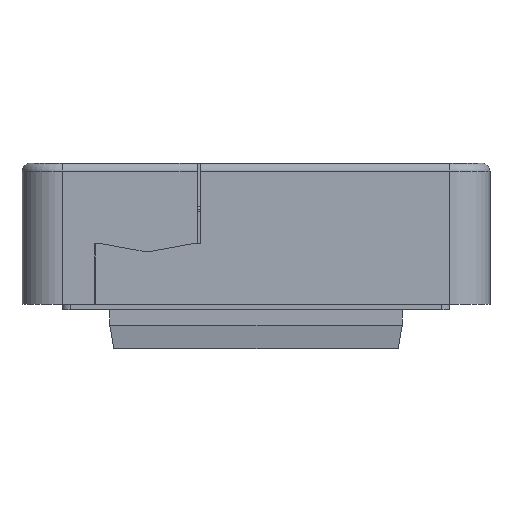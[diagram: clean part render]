
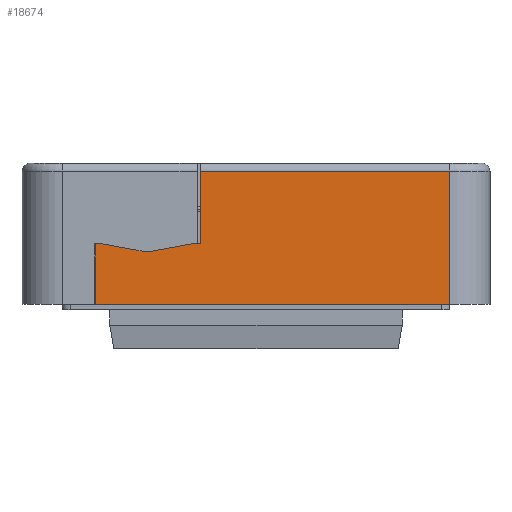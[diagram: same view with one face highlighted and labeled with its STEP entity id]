
A CAD part, left-side view. The second image highlights one B-rep face of the part: STEP entity #18674.
In plain terms, the highlighted planar face has unit normal (-1, 0, 0) as drawn and (1, 0, 0) by its records, which use the part's own axes.
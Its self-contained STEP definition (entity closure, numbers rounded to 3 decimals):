
#606=PLANE('',#20103);
#2400=LINE('',#31302,#4213);
#2446=LINE('',#31406,#4259);
#2448=LINE('',#31412,#4261);
#2449=LINE('',#31414,#4262);
#2450=LINE('',#31415,#4263);
#2451=LINE('',#31417,#4264);
#2452=LINE('',#31419,#4265);
#2453=LINE('',#31421,#4266);
#2454=LINE('',#31422,#4267);
#4213=VECTOR('',#23705,10.);
#4259=VECTOR('',#23785,10.);
#4261=VECTOR('',#23791,10.);
#4262=VECTOR('',#23792,10.);
#4263=VECTOR('',#23793,10.);
#4264=VECTOR('',#23794,10.);
#4265=VECTOR('',#23795,10.);
#4266=VECTOR('',#23796,10.);
#4267=VECTOR('',#23797,10.);
#5770=FACE_OUTER_BOUND('',#6908,.T.);
#6908=EDGE_LOOP('',(#16139,#16140,#16141,#16142,#16143,#16144,#16145,#16146,
#16147));
#9029=VERTEX_POINT('',#31299);
#9030=VERTEX_POINT('',#31301);
#9070=VERTEX_POINT('',#31403);
#9071=VERTEX_POINT('',#31405);
#9073=VERTEX_POINT('',#31411);
#9074=VERTEX_POINT('',#31413);
#9075=VERTEX_POINT('',#31416);
#9076=VERTEX_POINT('',#31418);
#9077=VERTEX_POINT('',#31420);
#11472=EDGE_CURVE('',#9030,#9029,#2400,.T.);
#11525=EDGE_CURVE('',#9071,#9070,#2446,.T.);
#11528=EDGE_CURVE('',#9073,#9029,#2448,.T.);
#11529=EDGE_CURVE('',#9074,#9073,#2449,.T.);
#11530=EDGE_CURVE('',#9071,#9074,#2450,.T.);
#11531=EDGE_CURVE('',#9070,#9075,#2451,.T.);
#11532=EDGE_CURVE('',#9075,#9076,#2452,.T.);
#11533=EDGE_CURVE('',#9076,#9077,#2453,.T.);
#11534=EDGE_CURVE('',#9077,#9030,#2454,.T.);
#16139=ORIENTED_EDGE('',*,*,#11472,.T.);
#16140=ORIENTED_EDGE('',*,*,#11528,.F.);
#16141=ORIENTED_EDGE('',*,*,#11529,.F.);
#16142=ORIENTED_EDGE('',*,*,#11530,.F.);
#16143=ORIENTED_EDGE('',*,*,#11525,.T.);
#16144=ORIENTED_EDGE('',*,*,#11531,.T.);
#16145=ORIENTED_EDGE('',*,*,#11532,.T.);
#16146=ORIENTED_EDGE('',*,*,#11533,.T.);
#16147=ORIENTED_EDGE('',*,*,#11534,.T.);
#18674=ADVANCED_FACE('',(#5770),#606,.T.);
#20103=AXIS2_PLACEMENT_3D('',#31410,#23789,#23790);
#23705=DIRECTION('',(0.,0.,-1.));
#23785=DIRECTION('',(0.,0.,-1.));
#23789=DIRECTION('center_axis',(1.,0.,0.));
#23790=DIRECTION('ref_axis',(0.,0.,-1.));
#23791=DIRECTION('',(0.,-1.,0.));
#23792=DIRECTION('',(0.,0.,-1.));
#23793=DIRECTION('',(0.,1.,0.));
#23794=DIRECTION('',(0.,-1.,0.));
#23795=DIRECTION('',(0.,-0.984,-0.179));
#23796=DIRECTION('',(0.,-0.984,0.179));
#23797=DIRECTION('',(0.,-1.,0.));
#31299=CARTESIAN_POINT('',(60.5,-19.9,0.));
#31301=CARTESIAN_POINT('',(60.5,-19.9,7.5));
#31302=CARTESIAN_POINT('',(60.5,-19.9,2.304));
#31403=CARTESIAN_POINT('',(60.5,-6.9,7.5));
#31405=CARTESIAN_POINT('',(60.5,-6.9,16.5));
#31406=CARTESIAN_POINT('',(60.5,-6.9,6.427));
#31410=CARTESIAN_POINT('Origin',(60.5,29.,0.));
#31411=CARTESIAN_POINT('',(60.5,24.,0.));
#31412=CARTESIAN_POINT('',(60.5,29.,0.));
#31413=CARTESIAN_POINT('',(60.5,24.,16.5));
#31414=CARTESIAN_POINT('',(60.5,24.,0.));
#31415=CARTESIAN_POINT('',(60.5,14.5,16.5));
#31416=CARTESIAN_POINT('',(60.5,-8.,7.5));
#31417=CARTESIAN_POINT('',(60.5,4.5,7.5));
#31418=CARTESIAN_POINT('',(60.5,-13.5,6.5));
#31419=CARTESIAN_POINT('',(60.5,6.498,10.136));
#31420=CARTESIAN_POINT('',(60.5,-19.,7.5));
#31421=CARTESIAN_POINT('',(60.5,4.892,3.156));
#31422=CARTESIAN_POINT('',(60.5,4.5,7.5));
